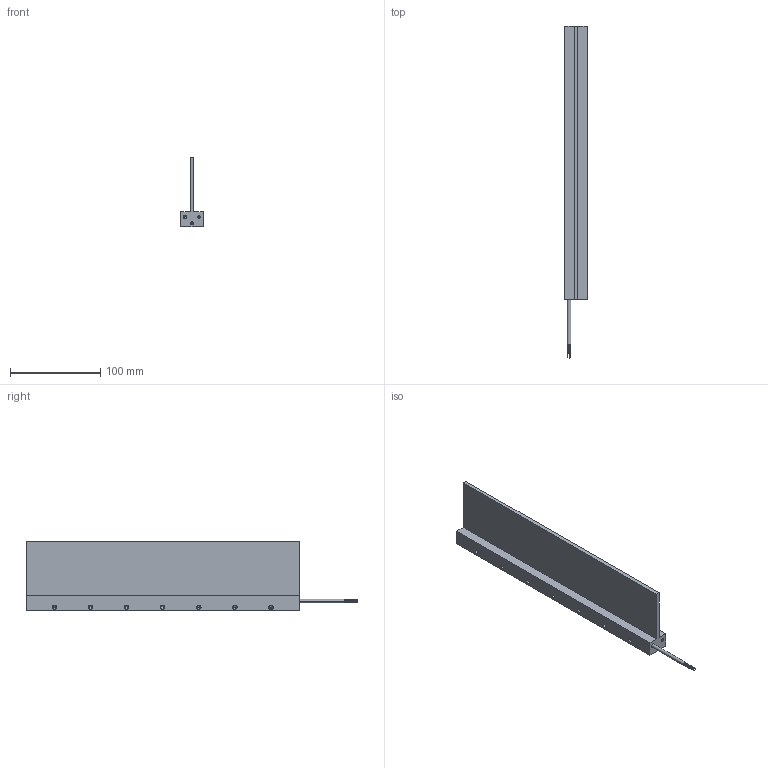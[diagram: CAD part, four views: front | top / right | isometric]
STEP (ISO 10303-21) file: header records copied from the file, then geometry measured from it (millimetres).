
FILE_DESCRIPTION((''),'2;1');
FILE_NAME('IL18-050','2006-04-05T',('saurabh.singhal'),('Kollmorgen'),'PRO/ENGINEER BY PARAMETRIC TECHNOLOGY CORPORATION, 2005310','PRO/ENGINEER BY PARAMETRIC TECHNOLOGY CORPORATION, 2005310','');
FILE_SCHEMA(('CONFIG_CONTROL_DESIGN'));
Length unit declared in the file: millimetre
Products named in the file (1): IL18-050
Bounding box: 24.4 x 367.82 x 77.3 mm (x, y, z)
Volume: 204576.4 mm3; surface area: 67880.6 mm2
Topology: 1 solids, 29 shells, 245 faces, 606 edges, 376 vertices
Faces by surface type: cylinder 138, cone 56, plane 51
Entity records: 7003 total; most frequent: DIRECTION 1374, CARTESIAN_POINT 1172, ORIENTED_EDGE 988, AXIS2_PLACEMENT_3D 578, EDGE_CURVE 550, VERTEX_POINT 376, CIRCLE 332, EDGE_LOOP 314
